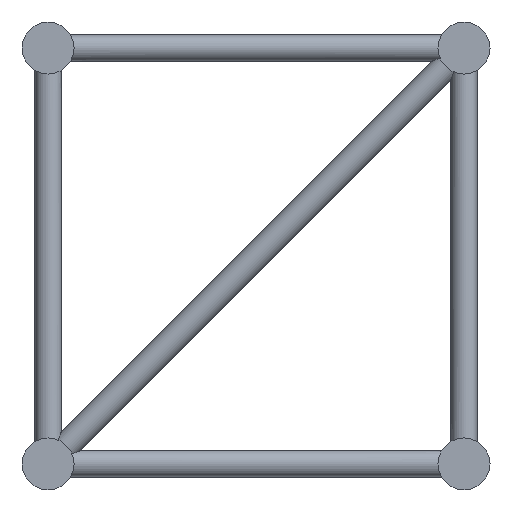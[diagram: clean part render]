
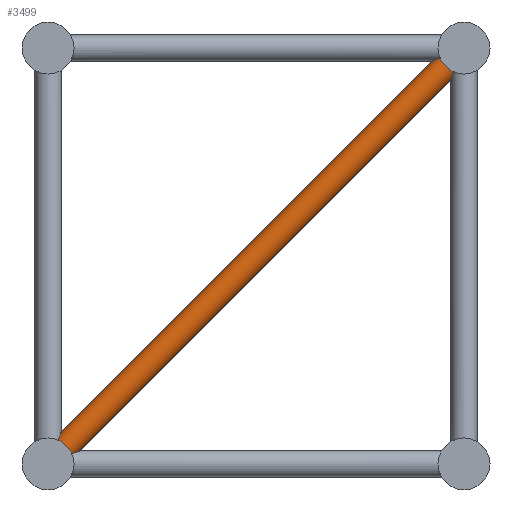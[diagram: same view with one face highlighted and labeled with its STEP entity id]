
A CAD part, left-side view. The second image highlights one B-rep face of the part: STEP entity #3499.
In plain terms, the highlighted cylindrical face has radius 15 mm (diameter 30 mm), a full revolution.
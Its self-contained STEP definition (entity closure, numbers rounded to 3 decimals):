
#530=FACE_BOUND('',#859,.T.);
#636=FACE_OUTER_BOUND('',#858,.T.);
#858=EDGE_LOOP('',(#2218,#2219,#2220,#2221));
#859=EDGE_LOOP('',(#2222,#2223,#2224,#2225));
#1186=CIRCLE('',#3725,15.);
#1187=CIRCLE('',#3727,15.);
#1188=CIRCLE('',#3729,15.);
#1189=CIRCLE('',#3731,15.);
#1354=ELLIPSE('',#3724,39.197,15.);
#1355=ELLIPSE('',#3726,39.197,15.);
#1356=ELLIPSE('',#3728,39.197,15.);
#1357=ELLIPSE('',#3730,39.197,15.);
#1426=VERTEX_POINT('',#5241);
#1427=VERTEX_POINT('',#5242);
#1428=VERTEX_POINT('',#5244);
#1429=VERTEX_POINT('',#5246);
#1430=VERTEX_POINT('',#5249);
#1431=VERTEX_POINT('',#5250);
#1432=VERTEX_POINT('',#5252);
#1433=VERTEX_POINT('',#5254);
#1746=EDGE_CURVE('',#1426,#1427,#1354,.T.);
#1747=EDGE_CURVE('',#1428,#1426,#1186,.T.);
#1748=EDGE_CURVE('',#1429,#1428,#1355,.T.);
#1749=EDGE_CURVE('',#1427,#1429,#1187,.T.);
#1750=EDGE_CURVE('',#1430,#1431,#1356,.T.);
#1751=EDGE_CURVE('',#1432,#1430,#1188,.T.);
#1752=EDGE_CURVE('',#1433,#1432,#1357,.T.);
#1753=EDGE_CURVE('',#1431,#1433,#1189,.T.);
#2218=ORIENTED_EDGE('',*,*,#1746,.F.);
#2219=ORIENTED_EDGE('',*,*,#1747,.F.);
#2220=ORIENTED_EDGE('',*,*,#1748,.F.);
#2221=ORIENTED_EDGE('',*,*,#1749,.F.);
#2222=ORIENTED_EDGE('',*,*,#1750,.F.);
#2223=ORIENTED_EDGE('',*,*,#1751,.F.);
#2224=ORIENTED_EDGE('',*,*,#1752,.F.);
#2225=ORIENTED_EDGE('',*,*,#1753,.F.);
#3210=CYLINDRICAL_SURFACE('',#3723,15.);
#3499=ADVANCED_FACE('',(#636,#530),#3210,.T.);
#3723=AXIS2_PLACEMENT_3D('',#5240,#4187,#4188);
#3724=AXIS2_PLACEMENT_3D('',#5243,#4189,#4190);
#3725=AXIS2_PLACEMENT_3D('',#5245,#4191,#4192);
#3726=AXIS2_PLACEMENT_3D('',#5247,#4193,#4194);
#3727=AXIS2_PLACEMENT_3D('',#5248,#4195,#4196);
#3728=AXIS2_PLACEMENT_3D('',#5251,#4197,#4198);
#3729=AXIS2_PLACEMENT_3D('',#5253,#4199,#4200);
#3730=AXIS2_PLACEMENT_3D('',#5255,#4201,#4202);
#3731=AXIS2_PLACEMENT_3D('',#5256,#4203,#4204);
#4187=DIRECTION('center_axis',(0.,-0.707,
0.707));
#4188=DIRECTION('ref_axis',(0.,0.707,0.707));
#4189=DIRECTION('center_axis',(0.,0.383,
0.924));
#4190=DIRECTION('ref_axis',(0.,0.924,-0.383));
#4191=DIRECTION('center_axis',(0.,-0.707,
0.707));
#4192=DIRECTION('ref_axis',(0.,0.707,0.707));
#4193=DIRECTION('center_axis',(0.,-0.924,
-0.383));
#4194=DIRECTION('ref_axis',(0.,-0.383,0.924));
#4195=DIRECTION('center_axis',(0.,-0.707,
0.707));
#4196=DIRECTION('ref_axis',(0.,0.707,0.707));
#4197=DIRECTION('center_axis',(0.,0.924,0.383));
#4198=DIRECTION('ref_axis',(0.,-0.383,0.924));
#4199=DIRECTION('center_axis',(0.,0.707,-0.707));
#4200=DIRECTION('ref_axis',(0.,0.707,0.707));
#4201=DIRECTION('center_axis',(0.,-0.383,
-0.924));
#4202=DIRECTION('ref_axis',(0.,0.924,-0.383));
#4203=DIRECTION('center_axis',(0.,0.707,-0.707));
#4204=DIRECTION('ref_axis',(0.,0.707,0.707));
#5240=CARTESIAN_POINT('Origin',(95.,452.322,-452.322));
#5241=CARTESIAN_POINT('',(105.852,25.,-10.355));
#5242=CARTESIAN_POINT('',(84.148,25.,-10.355));
#5243=CARTESIAN_POINT('Origin',(95.,0.,0.));
#5244=CARTESIAN_POINT('',(105.852,10.355,-25.));
#5245=CARTESIAN_POINT('Origin',(95.,17.678,-17.678));
#5246=CARTESIAN_POINT('',(84.148,10.355,-25.));
#5247=CARTESIAN_POINT('Origin',(95.,0.,0.));
#5248=CARTESIAN_POINT('Origin',(95.,17.678,-17.678));
#5249=CARTESIAN_POINT('',(84.148,459.645,-445.));
#5250=CARTESIAN_POINT('',(105.852,459.645,-445.));
#5251=CARTESIAN_POINT('Origin',(95.,470.,-470.));
#5252=CARTESIAN_POINT('',(84.148,445.,-459.645));
#5253=CARTESIAN_POINT('Origin',(95.,452.322,-452.322));
#5254=CARTESIAN_POINT('',(105.852,445.,-459.645));
#5255=CARTESIAN_POINT('Origin',(95.,470.,-470.));
#5256=CARTESIAN_POINT('Origin',(95.,452.322,-452.322));
